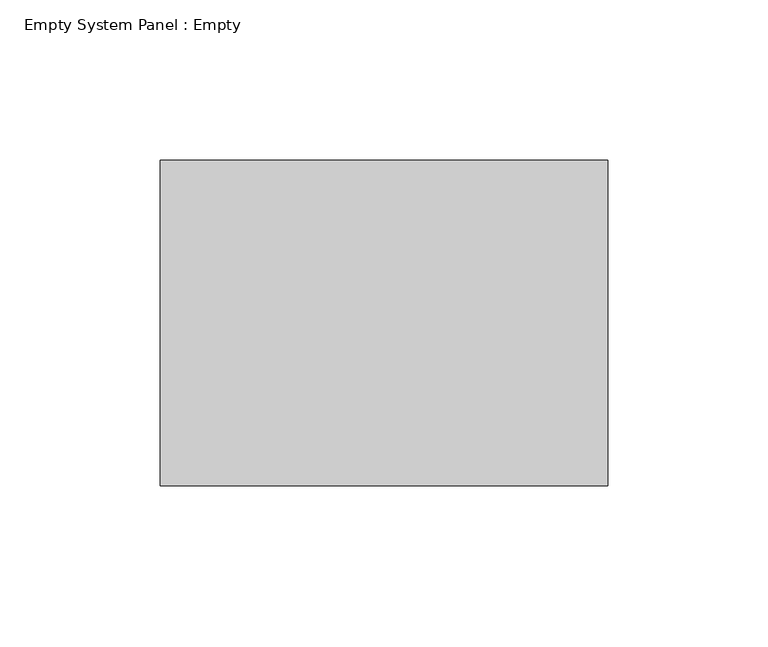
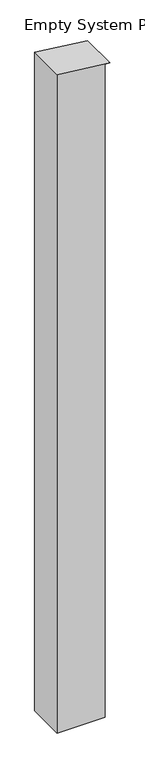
"""IFC4 building model written with IfcOpenShell, lengths in millimetres: plate geometry, Empty System Panel : Empty."""

from ifc_helpers import new_model, si_unit, frame, origin, place, context, project, spatial, polyline, outline, extrude, source, transform, mapped, element, save


def empty_system_panel_empty_3f9fb29d(model_context):
    return source(origin(), model_context, "Body", "SweptSolid", [
        extrude(outline(polyline([(0.0, -69.85), (0.0, 57.15), (1820.8909541, 57.15), (1820.8909541, 69.85), (1836.5161441, -69.85), (0.0, -69.85)])), frame((0.0, -50.8, 0.0), z_axis=(0.0, 1.0, 0.0), x_axis=(0.0, 0.0, 1.0)), (0.0, 0.0, 1.0), 101.6),
    ])


if __name__ == "__main__":
    model = new_model("IFC4")
    model_context = context("Model", 3, world=origin())
    ifc_project = project(units=[si_unit("LENGTHUNIT", "METRE", prefix="MILLI")], contexts=[model_context])
    site = spatial("IfcSite", under=ifc_project)
    building = spatial("IfcBuilding", under=site)
    placement = place(None, origin())
    empty_system_panel_empty_shape = empty_system_panel_empty_3f9fb29d(model_context)
    element("IfcPlate", 1, ObjectType="Empty System Panel : Empty", at=placement, inside=building, context=model_context, shape_type="MappedRepresentation", body=[
        mapped(empty_system_panel_empty_shape, transform((0.0, 0.0, 0.0), x_axis=(1.0, 0.0, 0.0), y_axis=(0.0, 1.0, 0.0), z_axis=(0.0, 0.0, 1.0))),
    ])
    save(model, "model.ifc")
